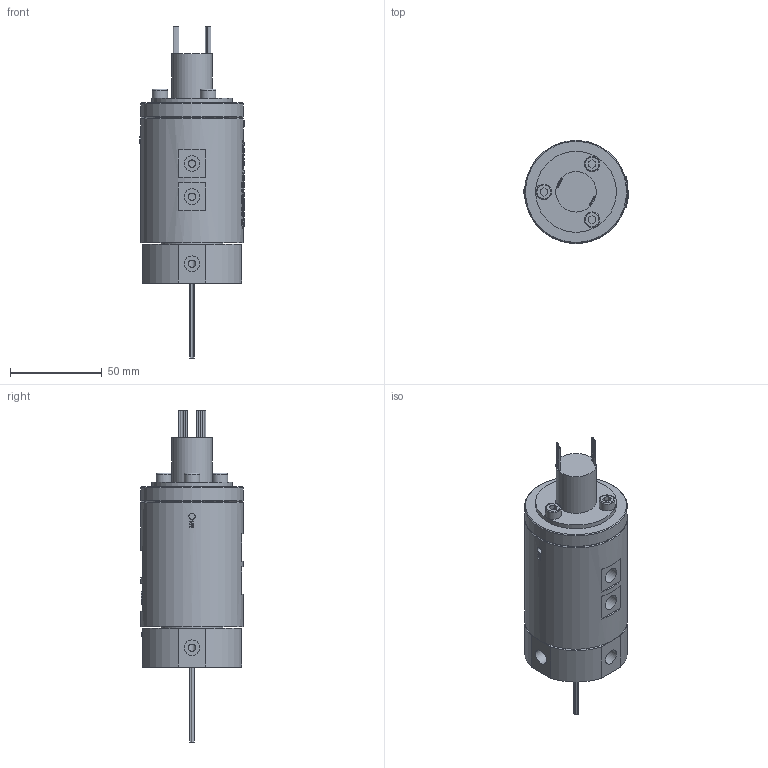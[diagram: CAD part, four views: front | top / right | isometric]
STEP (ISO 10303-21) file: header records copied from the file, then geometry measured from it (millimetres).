
FILE_DESCRIPTION(/* description */ (''),/* implementation_level */ '2;1');
FILE_NAME(/* name */ 'YQ0401-18M.stp',/* time_stamp */ '2025-02-15T15:25:50+08:00',/* author */ (''),/* organization */ (''),/* preprocessor_version */ 'ST-DEVELOPER v16.7',/* originating_system */ 'SIEMENS PLM Software NX 12.0',/* authorisation */ '');
FILE_SCHEMA (('AUTOMOTIVE_DESIGN { 1 0 10303 214 3 1 1 1 }'));
Length unit declared in the file: millimetre
Products named in the file (1): HX0527348ECCpcg4
Bounding box: 57 x 56 x 180.7 mm (x, y, z)
Volume: 242418.3 mm3; surface area: 37804.9 mm2
Topology: 1 solids, 4 shells, 1153 faces, 3061 edges, 2050 vertices
Faces by surface type: extrusion 530, plane 485, cylinder 95, bspline 33, cone 7, torus 3
Full cylindrical faces by diameter (mm): 0.8 x16, 3.4 x6, 4 x12, 4.1 x4, 4.2 x4, 5 x3, 5.5 x3, 7.8 x1, 8 x1, 8.5 x11, 22 x1, 34 x1, 44 x1, 56 x2
Entity records: 43141 total; most frequent: CARTESIAN_POINT 18787, ORIENTED_EDGE 5860, DIRECTION 2953, EDGE_CURVE 2930, B_SPLINE_CURVE_WITH_KNOTS 2526, VERTEX_POINT 2007, EDGE_LOOP 1371, VECTOR 1151
